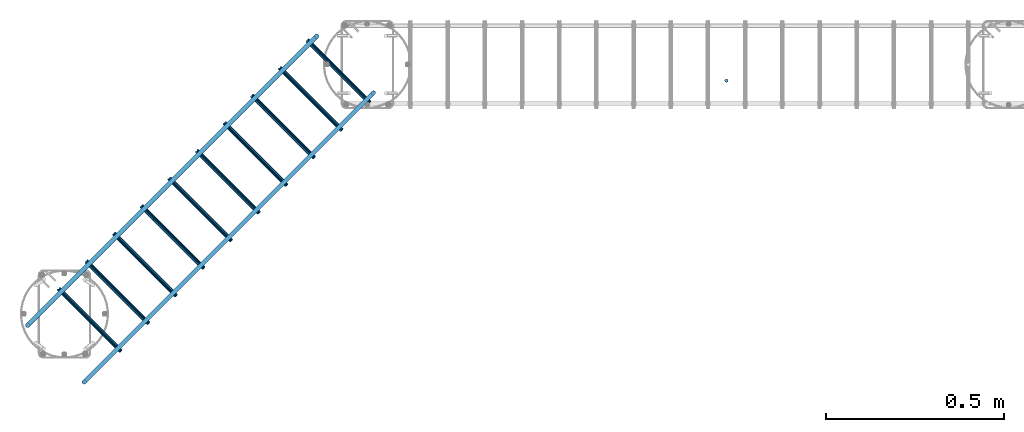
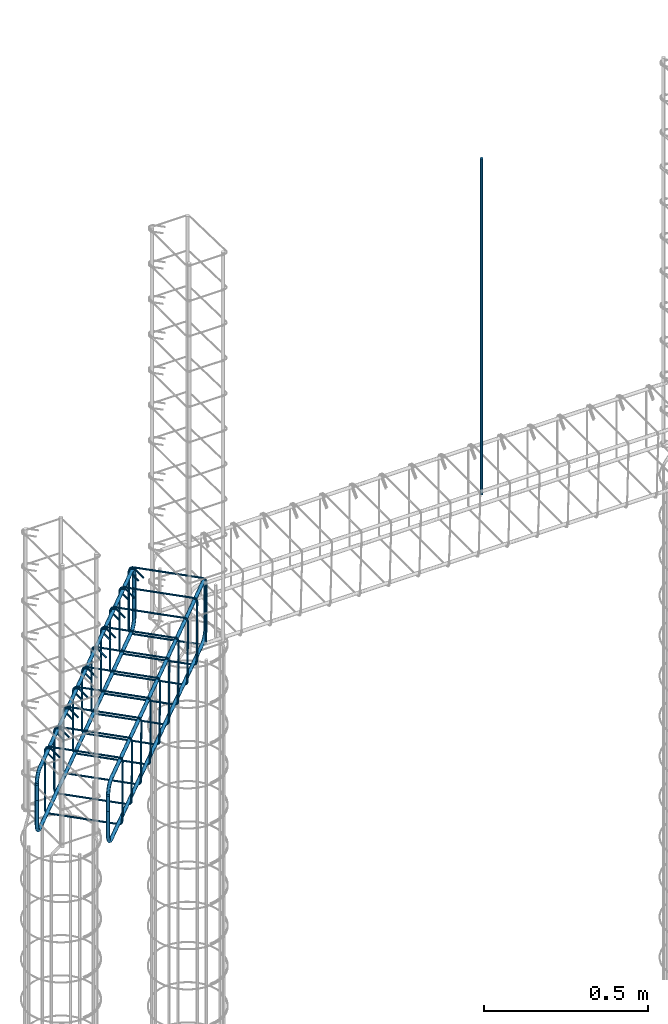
# One storey, part 4 of 14: 4 reinforcing bars.
"""IFC4 building model written with IfcOpenShell, lengths in centimetres."""

from ifc_helpers import new_model, entity, si_unit, converted_unit, derived_unit, direction, frame, origin, place, context, subcontext, project, spatial, type_object, element, save


model = new_model("IFC4")

# Units and contexts
model_context = context("Model", 3, precision=0.001, world=origin(), true_north=direction((6.123233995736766e-17, 1.0)))
body_context = subcontext(model_context, "Body", "Model", "MODEL_VIEW")
ifc_project = project(units=[si_unit("LENGTHUNIT", "METRE", prefix="CENTI"), si_unit("AREAUNIT", "SQUARE_METRE"), converted_unit("PLANEANGLEUNIT", "DEGREE", entity("IfcPlaneAngleMeasure", 0.017453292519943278), si_unit("PLANEANGLEUNIT", "RADIAN"), dimensions=[0, 0, 0, 0, 0, 0, 0]), si_unit("VOLUMEUNIT", "CUBIC_METRE"), derived_unit("THERMALTRANSMITTANCEUNIT", [(si_unit("MASSUNIT", "GRAM", prefix="KILO"), 1), (si_unit("THERMODYNAMICTEMPERATUREUNIT", "KELVIN"), -1), (si_unit("TIMEUNIT", "SECOND"), -3)])], contexts=[model_context])

# Site, building, storey
site_placement = place(None, origin())
site = spatial("IfcSite", under=ifc_project, at=site_placement, Name="Default", CompositionType="ELEMENT")
building_placement = place(site_placement, origin())
building = spatial("IfcBuilding", under=site, at=building_placement, Name="CONTENÇÃO DE ARQUIBANCADA - GINÁSIO PADRÃO", CompositionType="ELEMENT")
storey_placement = place(building_placement, frame((0.0, 0.0, -100.0)))
storey = spatial("IfcBuildingStorey", under=building, at=storey_placement, Name="Nível 3", CompositionType="ELEMENT", Elevation=-100.0)

# Reinforcing bars
reinforcing_bar_type_1 = type_object("IfcReinforcingBarType", Name="Barra do vergalhão:10 CA-50", PredefinedType="NOTDEFINED")
reinforcing_bar_1_placement = place(storey_placement, origin())
element("IfcReinforcingBar", 1, at=reinforcing_bar_1_placement, inside=storey, type_object=reinforcing_bar_type_1, Name="Barra do vergalhão:10 CA-50 : Forma 01", ObjectType="Barra do vergalhão:10 CA-50", context=body_context, shape_type="AdvancedSweptSolid", body=[
    entity("IfcSweptDiskSolid", entity("IfcIndexedPolyCurve", entity("IfcCartesianPointList3D", [[115.20531607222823, 244.57417522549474, 89.99999999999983], [115.20531607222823, 244.57417522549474, 214.99999999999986]]), None, False), 0.5, None, 0.0, 1.0),
])
reinforcing_bar_type_2 = type_object("IfcReinforcingBarType", Name="Barra do vergalhão:12.5 CA-50", PredefinedType="NOTDEFINED")
reinforcing_bar_2_placement = place(storey_placement, origin())
element("IfcReinforcingBar", 2, at=reinforcing_bar_2_placement, inside=storey, type_object=reinforcing_bar_type_2, Name="Barra do vergalhão:12.5 CA-50 : Forma 16", ObjectType="Barra do vergalhão:12.5 CA-50", context=body_context, shape_type="AdvancedSweptSolid", body=[
    entity("IfcSweptDiskSolid", entity("IfcIndexedPolyCurve", entity("IfcCartesianPointList3D", [[-80.8901283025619, 175.87800064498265, 93.12999999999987], [-80.89012830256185, 175.8780006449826, 77.5049999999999], [-80.1134778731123, 176.65465107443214, 74.85334957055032], [-78.23847787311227, 178.5296510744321, 73.75499999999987], [-2.4012755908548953, 254.36685335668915, 73.75499999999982], [-0.5262755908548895, 256.24185335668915, 74.85334957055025], [0.25037483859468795, 257.0185037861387, 77.50499999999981], [0.2503748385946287, 257.0185037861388, 93.12999999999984]]), [entity("IfcLineIndex", [1, 2]), entity("IfcArcIndex", [2, 3, 4]), entity("IfcLineIndex", [4, 5]), entity("IfcArcIndex", [5, 6, 7]), entity("IfcLineIndex", [7, 8])], False), 0.625, None, 0.0, 183.00000000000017),
    entity("IfcSweptDiskSolid", entity("IfcIndexedPolyCurve", entity("IfcCartesianPointList3D", [[-64.98729679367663, 159.97516913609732, 93.13000000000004], [-64.98729679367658, 159.97516913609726, 77.50500000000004], [-64.21064636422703, 160.75181956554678, 74.85334957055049], [-62.33564636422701, 162.62681956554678, 73.75500000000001], [13.501555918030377, 238.46402184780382, 73.75499999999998], [15.376555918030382, 240.33902184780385, 74.8533495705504], [16.153206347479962, 241.11567227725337, 77.50499999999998], [16.1532063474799, 241.11567227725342, 93.13]]), [entity("IfcLineIndex", [1, 2]), entity("IfcArcIndex", [2, 3, 4]), entity("IfcLineIndex", [4, 5]), entity("IfcArcIndex", [5, 6, 7]), entity("IfcLineIndex", [7, 8])], False), 0.625, None, 0.0, 183.00000000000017),
])
reinforcing_bar_3_placement = place(storey_placement, origin())
element("IfcReinforcingBar", 3, at=reinforcing_bar_3_placement, inside=storey, type_object=reinforcing_bar_type_2, Name="Barra do vergalhão:12.5 CA-50 : Forma 16", ObjectType="Barra do vergalhão:12.5 CA-50", context=body_context, shape_type="AdvancedSweptSolid", body=[
    entity("IfcSweptDiskSolid", entity("IfcIndexedPolyCurve", entity("IfcCartesianPointList3D", [[-64.98788154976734, 159.97458438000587, 86.86999999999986], [-64.98788154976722, 159.97458438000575, 92.49499999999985], [-64.21123112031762, 160.75123480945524, 95.14665042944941], [-62.336231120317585, 162.62623480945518, 96.24499999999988], [13.50097116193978, 238.4634370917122, 96.24499999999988], [15.375971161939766, 240.33843709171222, 95.14665042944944], [16.152621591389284, 241.11508752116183, 92.49499999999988], [16.15262159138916, 241.11508752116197, 86.86999999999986]]), [entity("IfcLineIndex", [1, 2]), entity("IfcArcIndex", [2, 3, 4]), entity("IfcLineIndex", [4, 5]), entity("IfcArcIndex", [5, 6, 7]), entity("IfcLineIndex", [7, 8])], False), 0.625, None, 0.0, 183.00000000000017),
    entity("IfcSweptDiskSolid", entity("IfcIndexedPolyCurve", entity("IfcCartesianPointList3D", [[-80.89071305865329, 175.87741588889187, 86.87000000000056], [-80.89071305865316, 175.87741588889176, 92.49500000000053], [-80.11406262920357, 176.65406631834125, 95.1466504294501], [-78.23906262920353, 178.5290663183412, 96.24500000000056], [-2.401860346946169, 254.36626860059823, 96.24500000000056], [-0.526860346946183, 256.2412686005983, 95.14665042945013], [0.2497900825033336, 257.0179190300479, 92.49500000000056], [0.24979008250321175, 257.017919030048, 86.87000000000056]]), [entity("IfcLineIndex", [1, 2]), entity("IfcArcIndex", [2, 3, 4]), entity("IfcLineIndex", [4, 5]), entity("IfcArcIndex", [5, 6, 7]), entity("IfcLineIndex", [7, 8])], False), 0.625, None, 0.0, 183.00000000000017),
])
reinforcing_bar_type_3 = type_object("IfcReinforcingBarType", Name="Barra do vergalhão:6.3 CA-50", PredefinedType="NOTDEFINED")
reinforcing_bar_4_placement = place(storey_placement, origin())
element("IfcReinforcingBar", 4, at=reinforcing_bar_4_placement, inside=storey, type_object=reinforcing_bar_type_3, Name="Barra do vergalhão:6.3 CA-50 : Forma 22", ObjectType="Barra do vergalhão:6.3 CA-50", context=body_context, shape_type="AdvancedSweptSolid", body=[
    entity("IfcSweptDiskSolid", entity("IfcIndexedPolyCurve", entity("IfcCartesianPointList3D", [[0.8066870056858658, 252.25607267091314, 94.26598964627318], [-0.996410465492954, 254.05917014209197, 96.8159545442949], [-1.967364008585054, 255.03012368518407, 97.08908821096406], [-2.5173650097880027, 255.58012468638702, 95.92499999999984], [-2.5173650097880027, 255.58012468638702, 74.0749999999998], [-2.2564104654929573, 255.319170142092, 73.18404545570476], [-1.626410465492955, 254.689170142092, 72.8149999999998], [13.823872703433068, 239.2388869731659, 72.8149999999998], [14.460616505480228, 238.61563077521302, 73.18392220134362], [14.737852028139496, 238.37095720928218, 74.0745791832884], [15.137279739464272, 238.77038492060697, 95.92542081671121], [14.89260617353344, 239.04762044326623, 96.81607779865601], [14.2693499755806, 239.6843642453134, 97.18499999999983], [-1.1809331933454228, 255.1346474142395, 97.18499999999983], [-2.004067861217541, 255.95778208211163, 96.40718112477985], [-1.8109331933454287, 255.76464741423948, 95.03404545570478], [-0.007835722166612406, 253.96154994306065, 92.48408055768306]]), [entity("IfcLineIndex", [1, 2]), entity("IfcArcIndex", [2, 3, 4]), entity("IfcLineIndex", [4, 5]), entity("IfcArcIndex", [5, 6, 7]), entity("IfcLineIndex", [7, 8]), entity("IfcArcIndex", [8, 9, 10]), entity("IfcLineIndex", [10, 11]), entity("IfcArcIndex", [11, 12, 13]), entity("IfcLineIndex", [13, 14]), entity("IfcArcIndex", [14, 15, 16]), entity("IfcLineIndex", [16, 17])], False), 0.31499999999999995, None, 0.0, 546.0000000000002),
    entity("IfcSweptDiskSolid", entity("IfcIndexedPolyCurve", entity("IfcCartesianPointList3D", [[-6.944795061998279, 244.50459060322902, 94.26598964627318], [-8.747892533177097, 246.30768807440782, 96.8159545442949], [-9.718846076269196, 247.27864161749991, 97.08908821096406], [-10.268847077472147, 247.82864261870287, 95.92499999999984], [-10.268847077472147, 247.82864261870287, 74.0749999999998], [-10.0078925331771, 247.56768807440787, 73.18404545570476], [-9.377892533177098, 246.93768807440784, 72.8149999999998], [6.072390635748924, 231.48740490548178, 72.8149999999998], [6.709134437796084, 230.86414870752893, 73.18392220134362], [6.9863699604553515, 230.6194751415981, 74.0745791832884], [7.385797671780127, 231.01890285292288, 95.92542081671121], [7.141124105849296, 231.29613837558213, 96.81607779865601], [6.517867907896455, 231.93288217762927, 97.18499999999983], [-8.932415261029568, 247.38316534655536, 97.18499999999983], [-9.755549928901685, 248.2063000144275, 96.40718112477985], [-9.562415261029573, 248.01316534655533, 95.03404545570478], [-7.759317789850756, 246.21006787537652, 92.48408055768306]]), [entity("IfcLineIndex", [1, 2]), entity("IfcArcIndex", [2, 3, 4]), entity("IfcLineIndex", [4, 5]), entity("IfcArcIndex", [5, 6, 7]), entity("IfcLineIndex", [7, 8]), entity("IfcArcIndex", [8, 9, 10]), entity("IfcLineIndex", [10, 11]), entity("IfcArcIndex", [11, 12, 13]), entity("IfcLineIndex", [13, 14]), entity("IfcArcIndex", [14, 15, 16]), entity("IfcLineIndex", [16, 17])], False), 0.31499999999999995, None, 0.0, 546.0000000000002),
    entity("IfcSweptDiskSolid", entity("IfcIndexedPolyCurve", entity("IfcCartesianPointList3D", [[-14.696277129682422, 236.75310853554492, 94.26598964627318], [-16.49937460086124, 238.55620600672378, 96.8159545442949], [-17.470328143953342, 239.52715954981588, 97.08908821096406], [-18.02032914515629, 240.0771605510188, 95.92499999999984], [-18.02032914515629, 240.07716055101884, 74.0749999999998], [-17.759374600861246, 239.81620600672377, 73.18404545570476], [-17.129374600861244, 239.18620600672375, 72.8149999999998], [-1.67909143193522, 223.7359228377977, 72.8149999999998], [-1.0423476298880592, 223.11266663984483, 73.18392220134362], [-0.7651121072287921, 222.867993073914, 74.0745791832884], [-0.3656843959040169, 223.26742078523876, 95.92542081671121], [-0.6103579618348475, 223.54465630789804, 96.81607779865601], [-1.2336141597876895, 224.18140010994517, 97.18499999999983], [-16.683897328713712, 239.6316832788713, 97.18499999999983], [-17.50703199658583, 240.45481794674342, 96.40718112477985], [-17.313897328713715, 240.26168327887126, 95.03404545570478], [-15.510799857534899, 238.45858580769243, 92.48408055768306]]), [entity("IfcLineIndex", [1, 2]), entity("IfcArcIndex", [2, 3, 4]), entity("IfcLineIndex", [4, 5]), entity("IfcArcIndex", [5, 6, 7]), entity("IfcLineIndex", [7, 8]), entity("IfcArcIndex", [8, 9, 10]), entity("IfcLineIndex", [10, 11]), entity("IfcArcIndex", [11, 12, 13]), entity("IfcLineIndex", [13, 14]), entity("IfcArcIndex", [14, 15, 16]), entity("IfcLineIndex", [16, 17])], False), 0.31499999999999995, None, 0.0, 546.0000000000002),
    entity("IfcSweptDiskSolid", entity("IfcIndexedPolyCurve", entity("IfcCartesianPointList3D", [[-22.447759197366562, 229.0016264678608, 94.26598964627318], [-24.25085666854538, 230.80472393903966, 96.8159545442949], [-25.221810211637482, 231.77567748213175, 97.08908821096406], [-25.771811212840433, 232.32567848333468, 95.92499999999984], [-25.771811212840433, 232.3256784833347, 74.0749999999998], [-25.510856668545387, 232.06472393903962, 73.18404545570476], [-24.880856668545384, 231.43472393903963, 72.8149999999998], [-9.43057349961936, 215.9844407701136, 72.8149999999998], [-8.7938296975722, 215.3611845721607, 73.18392220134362], [-8.516594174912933, 215.11651100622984, 74.0745791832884], [-8.117166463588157, 215.51593871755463, 95.92542081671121], [-8.361840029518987, 215.79317424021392, 96.81607779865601], [-8.98509622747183, 216.42991804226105, 97.18499999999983], [-24.435379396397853, 231.88020121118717, 97.18499999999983], [-25.25851406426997, 232.70333587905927, 96.40718112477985], [-25.065379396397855, 232.51020121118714, 95.03404545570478], [-23.26228192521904, 230.7071037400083, 92.48408055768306]]), [entity("IfcLineIndex", [1, 2]), entity("IfcArcIndex", [2, 3, 4]), entity("IfcLineIndex", [4, 5]), entity("IfcArcIndex", [5, 6, 7]), entity("IfcLineIndex", [7, 8]), entity("IfcArcIndex", [8, 9, 10]), entity("IfcLineIndex", [10, 11]), entity("IfcArcIndex", [11, 12, 13]), entity("IfcLineIndex", [13, 14]), entity("IfcArcIndex", [14, 15, 16]), entity("IfcLineIndex", [16, 17])], False), 0.31499999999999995, None, 0.0, 546.0000000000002),
    entity("IfcSweptDiskSolid", entity("IfcIndexedPolyCurve", entity("IfcCartesianPointList3D", [[-30.19924126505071, 221.2501444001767, 94.26598964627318], [-32.00233873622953, 223.05324187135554, 96.8159545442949], [-32.97329227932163, 224.02419541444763, 97.08908821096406], [-33.52329328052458, 224.57419641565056, 95.92499999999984], [-33.52329328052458, 224.5741964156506, 74.0749999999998], [-33.26233873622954, 224.31324187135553, 73.18404545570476], [-32.632338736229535, 223.6832418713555, 72.8149999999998], [-17.182055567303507, 208.23295870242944, 72.8149999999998], [-16.54531176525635, 207.6097025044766, 73.18392220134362], [-16.26807624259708, 207.36502893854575, 74.0745791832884], [-15.868648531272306, 207.76445664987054, 95.92542081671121], [-16.113322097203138, 208.0416921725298, 96.81607779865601], [-16.73657829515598, 208.67843597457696, 97.18499999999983], [-32.18686146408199, 224.12871914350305, 97.18499999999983], [-33.00999613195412, 224.95185381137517, 96.40718112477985], [-32.81686146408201, 224.75871914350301, 95.03404545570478], [-31.013763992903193, 222.9556216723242, 92.48408055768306]]), [entity("IfcLineIndex", [1, 2]), entity("IfcArcIndex", [2, 3, 4]), entity("IfcLineIndex", [4, 5]), entity("IfcArcIndex", [5, 6, 7]), entity("IfcLineIndex", [7, 8]), entity("IfcArcIndex", [8, 9, 10]), entity("IfcLineIndex", [10, 11]), entity("IfcArcIndex", [11, 12, 13]), entity("IfcLineIndex", [13, 14]), entity("IfcArcIndex", [14, 15, 16]), entity("IfcLineIndex", [16, 17])], False), 0.31499999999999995, None, 0.0, 546.0000000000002),
    entity("IfcSweptDiskSolid", entity("IfcIndexedPolyCurve", entity("IfcCartesianPointList3D", [[-37.95072333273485, 213.4986623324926, 94.26598964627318], [-39.753820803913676, 215.30175980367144, 96.8159545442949], [-40.72477434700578, 216.27271334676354, 97.08908821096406], [-41.27477534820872, 216.82271434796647, 95.92499999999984], [-41.27477534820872, 216.8227143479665, 74.0749999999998], [-41.01382080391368, 216.56175980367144, 73.18404545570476], [-40.38382080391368, 215.9317598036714, 72.8149999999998], [-24.933537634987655, 200.48147663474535, 72.8149999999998], [-24.296793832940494, 199.8582204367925, 73.18392220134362], [-24.019558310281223, 199.61354687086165, 74.0745791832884], [-23.62013059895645, 200.01297458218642, 95.92542081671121], [-23.864804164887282, 200.2902101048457, 96.81607779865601], [-24.488060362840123, 200.92695390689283, 97.18499999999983], [-39.93834353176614, 216.37723707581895, 97.18499999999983], [-40.76147819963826, 217.20037174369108, 96.40718112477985], [-40.56834353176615, 217.00723707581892, 95.03404545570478], [-38.76524606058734, 215.2041396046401, 92.48408055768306]]), [entity("IfcLineIndex", [1, 2]), entity("IfcArcIndex", [2, 3, 4]), entity("IfcLineIndex", [4, 5]), entity("IfcArcIndex", [5, 6, 7]), entity("IfcLineIndex", [7, 8]), entity("IfcArcIndex", [8, 9, 10]), entity("IfcLineIndex", [10, 11]), entity("IfcArcIndex", [11, 12, 13]), entity("IfcLineIndex", [13, 14]), entity("IfcArcIndex", [14, 15, 16]), entity("IfcLineIndex", [16, 17])], False), 0.31499999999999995, None, 0.0, 546.0000000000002),
    entity("IfcSweptDiskSolid", entity("IfcIndexedPolyCurve", entity("IfcCartesianPointList3D", [[-45.70220540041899, 205.7471802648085, 94.26598964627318], [-47.50530287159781, 207.55027773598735, 96.8159545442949], [-48.476256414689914, 208.52123127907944, 97.08908821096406], [-49.02625741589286, 209.07123228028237, 95.92499999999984], [-49.02625741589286, 209.0712322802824, 74.0749999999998], [-48.76530287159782, 208.8102777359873, 73.18404545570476], [-48.135302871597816, 208.18027773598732, 72.8149999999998], [-32.685019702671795, 192.72999456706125, 72.8149999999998], [-32.04827590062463, 192.10673836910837, 73.18392220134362], [-31.771040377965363, 191.86206480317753, 74.0745791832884], [-31.371612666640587, 192.26149251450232, 95.92542081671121], [-31.61628623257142, 192.5387280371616, 96.81607779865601], [-32.23954243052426, 193.17547183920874, 97.18499999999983], [-47.68982559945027, 208.62575500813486, 97.18499999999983], [-48.5129602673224, 209.44888967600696, 96.40718112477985], [-48.31982559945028, 209.25575500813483, 95.03404545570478], [-46.51672812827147, 207.452657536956, 92.48408055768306]]), [entity("IfcLineIndex", [1, 2]), entity("IfcArcIndex", [2, 3, 4]), entity("IfcLineIndex", [4, 5]), entity("IfcArcIndex", [5, 6, 7]), entity("IfcLineIndex", [7, 8]), entity("IfcArcIndex", [8, 9, 10]), entity("IfcLineIndex", [10, 11]), entity("IfcArcIndex", [11, 12, 13]), entity("IfcLineIndex", [13, 14]), entity("IfcArcIndex", [14, 15, 16]), entity("IfcLineIndex", [16, 17])], False), 0.31499999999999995, None, 0.0, 546.0000000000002),
    entity("IfcSweptDiskSolid", entity("IfcIndexedPolyCurve", entity("IfcCartesianPointList3D", [[-53.45368746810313, 197.9956981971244, 94.26598964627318], [-55.25678493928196, 199.79879566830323, 96.8159545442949], [-56.22773848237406, 200.76974921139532, 97.08908821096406], [-56.777739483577, 201.31975021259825, 95.92499999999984], [-56.777739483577, 201.31975021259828, 74.0749999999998], [-56.51678493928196, 201.05879566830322, 73.18404545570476], [-55.88678493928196, 200.4287956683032, 72.8149999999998], [-40.43650177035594, 184.97851249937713, 72.8149999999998], [-39.799757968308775, 184.35525630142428, 73.18392220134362], [-39.52252244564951, 184.11058273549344, 74.0745791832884], [-39.12309473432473, 184.51001044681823, 95.92542081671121], [-39.36776830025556, 184.78724596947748, 96.81607779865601], [-39.991024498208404, 185.42398977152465, 97.18499999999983], [-55.44130766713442, 200.87427294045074, 97.18499999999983], [-56.26444233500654, 201.69740760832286, 96.40718112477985], [-56.07130766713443, 201.5042729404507, 95.03404545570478], [-54.26821019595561, 199.7011754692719, 92.48408055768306]]), [entity("IfcLineIndex", [1, 2]), entity("IfcArcIndex", [2, 3, 4]), entity("IfcLineIndex", [4, 5]), entity("IfcArcIndex", [5, 6, 7]), entity("IfcLineIndex", [7, 8]), entity("IfcArcIndex", [8, 9, 10]), entity("IfcLineIndex", [10, 11]), entity("IfcArcIndex", [11, 12, 13]), entity("IfcLineIndex", [13, 14]), entity("IfcArcIndex", [14, 15, 16]), entity("IfcLineIndex", [16, 17])], False), 0.31499999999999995, None, 0.0, 546.0000000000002),
    entity("IfcSweptDiskSolid", entity("IfcIndexedPolyCurve", entity("IfcCartesianPointList3D", [[-61.2051695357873, 190.24421612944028, 94.26598964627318], [-63.0082670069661, 192.0473136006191, 96.8159545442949], [-63.97922055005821, 193.0182671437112, 97.08908821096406], [-64.52922155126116, 193.56826814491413, 95.92499999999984], [-64.52922155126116, 193.56826814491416, 74.0749999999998], [-64.26826700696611, 193.3073136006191, 73.18404545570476], [-63.63826700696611, 192.67731360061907, 72.8149999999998], [-48.18798383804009, 177.22703043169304, 72.8149999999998], [-47.551240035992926, 176.60377423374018, 73.18392220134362], [-47.27400451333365, 176.35910066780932, 74.0745791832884], [-46.87457680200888, 176.75852837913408, 95.92542081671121], [-47.11925036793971, 177.03576390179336, 96.81607779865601], [-47.742506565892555, 177.6725077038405, 97.18499999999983], [-63.192789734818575, 193.12279087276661, 97.18499999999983], [-64.01592440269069, 193.94592554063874, 96.40718112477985], [-63.822789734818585, 193.75279087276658, 95.03404545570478], [-62.01969226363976, 191.94969340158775, 92.48408055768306]]), [entity("IfcLineIndex", [1, 2]), entity("IfcArcIndex", [2, 3, 4]), entity("IfcLineIndex", [4, 5]), entity("IfcArcIndex", [5, 6, 7]), entity("IfcLineIndex", [7, 8]), entity("IfcArcIndex", [8, 9, 10]), entity("IfcLineIndex", [10, 11]), entity("IfcArcIndex", [11, 12, 13]), entity("IfcLineIndex", [13, 14]), entity("IfcArcIndex", [14, 15, 16]), entity("IfcLineIndex", [16, 17])], False), 0.31499999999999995, None, 0.0, 546.0000000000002),
    entity("IfcSweptDiskSolid", entity("IfcIndexedPolyCurve", entity("IfcCartesianPointList3D", [[-68.95665160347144, 182.49273406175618, 94.26598964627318], [-70.75974907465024, 184.29583153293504, 96.8159545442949], [-71.73070261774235, 185.26678507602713, 97.08908821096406], [-72.2807036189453, 185.81678607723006, 95.92499999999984], [-72.2807036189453, 185.8167860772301, 74.0749999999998], [-72.01974907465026, 185.55583153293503, 73.18404545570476], [-71.38974907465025, 184.925831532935, 72.8149999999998], [-55.939465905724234, 169.47554836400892, 72.8149999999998], [-55.30272210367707, 168.85229216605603, 73.18392220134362], [-55.025486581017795, 168.60761860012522, 74.0745791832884], [-54.626058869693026, 169.00704631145, 95.92542081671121], [-54.87073243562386, 169.2842818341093, 96.81607779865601], [-55.4939886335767, 169.92102563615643, 97.18499999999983], [-70.94427180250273, 185.37130880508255, 97.18499999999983], [-71.76740647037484, 186.19444347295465, 96.40718112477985], [-71.57427180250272, 186.00130880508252, 95.03404545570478], [-69.7711743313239, 184.19821133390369, 92.48408055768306]]), [entity("IfcLineIndex", [1, 2]), entity("IfcArcIndex", [2, 3, 4]), entity("IfcLineIndex", [4, 5]), entity("IfcArcIndex", [5, 6, 7]), entity("IfcLineIndex", [7, 8]), entity("IfcArcIndex", [8, 9, 10]), entity("IfcLineIndex", [10, 11]), entity("IfcArcIndex", [11, 12, 13]), entity("IfcLineIndex", [13, 14]), entity("IfcArcIndex", [14, 15, 16]), entity("IfcLineIndex", [16, 17])], False), 0.31499999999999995, None, 0.0, 546.0000000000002),
])

save(model, "model.ifc")
